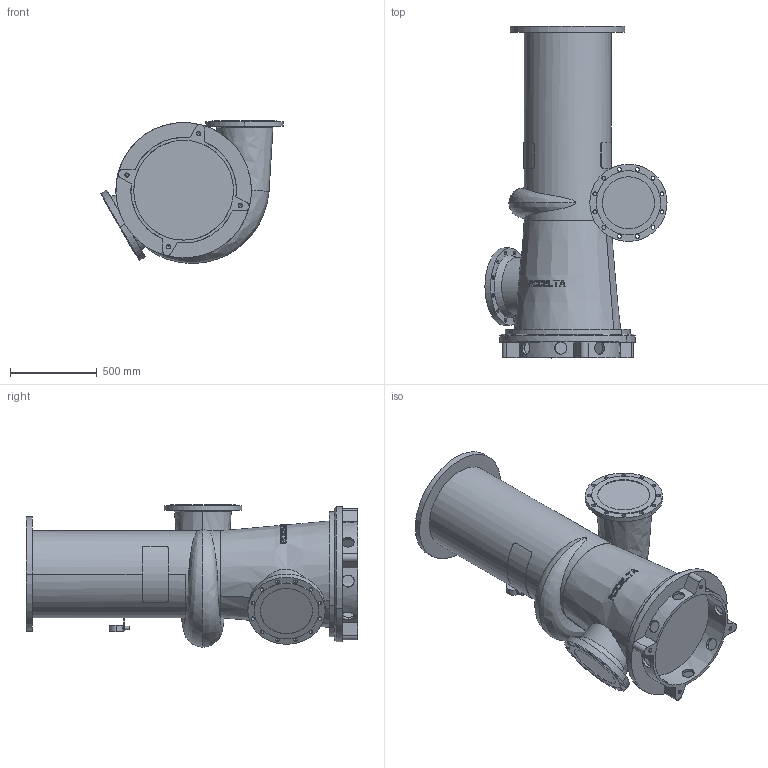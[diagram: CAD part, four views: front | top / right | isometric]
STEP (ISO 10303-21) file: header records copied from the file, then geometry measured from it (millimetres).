
FILE_DESCRIPTION((''),'2;1');
FILE_NAME('12-510_ASM','2024-08-05T',('Lyritlocal'),(''),'PRO/ENGINEER BY PARAMETRIC TECHNOLOGY CORPORATION, 2016360','PRO/ENGINEER BY PARAMETRIC TECHNOLOGY CORPORATION, 2016360','');
FILE_SCHEMA(('CONFIG_CONTROL_DESIGN'));
Length unit declared in the file: millimetre
Products named in the file (3): 12-510; 12-510_VOET; 12-510_ASM
Assembly tree (2 placements, depth 2):
  12-510_ASM
    12-510
    12-510_VOET
Bounding box: 1048.35 x 1910 x 820.36 mm (x, y, z)
Volume: 485964673.1 mm3; surface area: 6451901.8 mm2
Topology: 2 solids, 6 shells, 503 faces, 1366 edges, 900 vertices
Faces by surface type: plane 323, cylinder 138, cone 36, bspline 6
Entity records: 18234 total; most frequent: CARTESIAN_POINT 5945, ORIENTED_EDGE 2700, DIRECTION 2279, EDGE_CURVE 1358, VERTEX_POINT 900, AXIS2_PLACEMENT_3D 896, EDGE_LOOP 608, FACE_OUTER_BOUND 503
